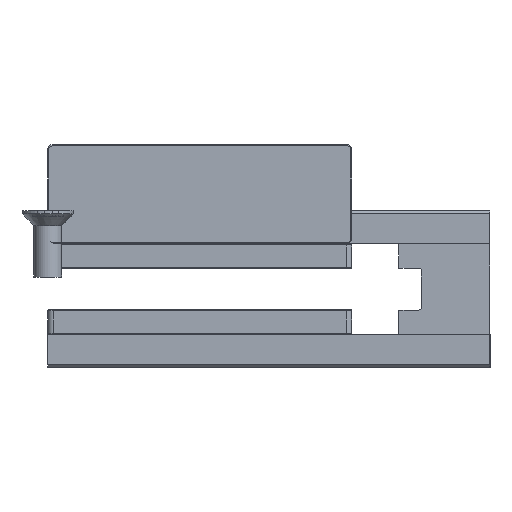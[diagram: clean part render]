
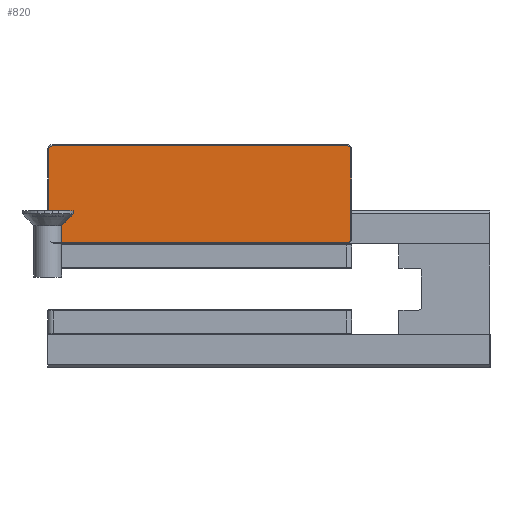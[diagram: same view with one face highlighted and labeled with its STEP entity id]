
A CAD part, front view. The second image highlights one B-rep face of the part: STEP entity #820.
In plain terms, the highlighted planar face has unit normal (0, -1, 0).
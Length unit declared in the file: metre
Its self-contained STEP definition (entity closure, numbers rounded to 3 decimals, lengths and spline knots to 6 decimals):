
#820 = ADVANCED_FACE( '', ( #1056 ), #1057, .T. );
#1056 = FACE_OUTER_BOUND( '', #1834, .T. );
#1057 = PLANE( '', #1835 );
#1834 = EDGE_LOOP( '', ( #2617, #2618, #2619, #2620, #2621, #2622, #2623, #2624 ) );
#1835 = AXIS2_PLACEMENT_3D( '', #2625, #2626, #2627 );
#2617 = ORIENTED_EDGE( '', *, *, #4280, .T. );
#2618 = ORIENTED_EDGE( '', *, *, #4281, .T. );
#2619 = ORIENTED_EDGE( '', *, *, #4282, .T. );
#2620 = ORIENTED_EDGE( '', *, *, #4283, .T. );
#2621 = ORIENTED_EDGE( '', *, *, #4284, .T. );
#2622 = ORIENTED_EDGE( '', *, *, #4285, .T. );
#2623 = ORIENTED_EDGE( '', *, *, #4286, .T. );
#2624 = ORIENTED_EDGE( '', *, *, #4287, .T. );
#2625 = CARTESIAN_POINT( '', ( 0.001, 0., 0.001 ) );
#2626 = DIRECTION( '', ( 0., -1., 0. ) );
#2627 = DIRECTION( '', ( 0., 0., -1. ) );
#4280 = EDGE_CURVE( '', #4766, #4767, #4768, .T. );
#4281 = EDGE_CURVE( '', #4767, #4769, #4770, .T. );
#4282 = EDGE_CURVE( '', #4769, #4771, #4772, .T. );
#4283 = EDGE_CURVE( '', #4771, #4773, #4774, .T. );
#4284 = EDGE_CURVE( '', #4773, #4775, #4776, .T. );
#4285 = EDGE_CURVE( '', #4775, #4777, #4778, .T. );
#4286 = EDGE_CURVE( '', #4777, #4779, #4780, .T. );
#4287 = EDGE_CURVE( '', #4779, #4766, #4781, .T. );
#4766 = VERTEX_POINT( '', #5640 );
#4767 = VERTEX_POINT( '', #5641 );
#4768 = CIRCLE( '', #5642, 0.0008 );
#4769 = VERTEX_POINT( '', #5643 );
#4770 = LINE( '', #5644, #5645 );
#4771 = VERTEX_POINT( '', #5646 );
#4772 = CIRCLE( '', #5647, 0.0008 );
#4773 = VERTEX_POINT( '', #5648 );
#4774 = LINE( '', #5649, #5650 );
#4775 = VERTEX_POINT( '', #5651 );
#4776 = CIRCLE( '', #5652, 0.0008 );
#4777 = VERTEX_POINT( '', #5653 );
#4778 = LINE( '', #5654, #5655 );
#4779 = VERTEX_POINT( '', #5656 );
#4780 = CIRCLE( '', #5657, 0.0008 );
#4781 = LINE( '', #5658, #5659 );
#5640 = CARTESIAN_POINT( '', ( 0.0548, 0., 0.017 ) );
#5641 = CARTESIAN_POINT( '', ( 0.054, 0., 0.0178 ) );
#5642 = AXIS2_PLACEMENT_3D( '', #6850, #6851, #6852 );
#5643 = CARTESIAN_POINT( '', ( 0.001, 0., 0.0178 ) );
#5644 = CARTESIAN_POINT( '', ( 0.001, 0., 0.0178 ) );
#5645 = VECTOR( '', #6853, 1. );
#5646 = CARTESIAN_POINT( '', ( 0.0002, 0., 0.017 ) );
#5647 = AXIS2_PLACEMENT_3D( '', #6854, #6855, #6856 );
#5648 = CARTESIAN_POINT( '', ( 0.0002, 0., 0.001 ) );
#5649 = CARTESIAN_POINT( '', ( 0.0002, 0., 0.001 ) );
#5650 = VECTOR( '', #6857, 1. );
#5651 = CARTESIAN_POINT( '', ( 0.001, 0., 0.0002 ) );
#5652 = AXIS2_PLACEMENT_3D( '', #6858, #6859, #6860 );
#5653 = CARTESIAN_POINT( '', ( 0.054, 0., 0.0002 ) );
#5654 = CARTESIAN_POINT( '', ( 0.001, 0., 0.0002 ) );
#5655 = VECTOR( '', #6861, 1. );
#5656 = CARTESIAN_POINT( '', ( 0.0548, 0., 0.001 ) );
#5657 = AXIS2_PLACEMENT_3D( '', #6862, #6863, #6864 );
#5658 = CARTESIAN_POINT( '', ( 0.0548, 0., 0.001 ) );
#5659 = VECTOR( '', #6865, 1. );
#6850 = CARTESIAN_POINT( '', ( 0.054, 0., 0.017 ) );
#6851 = DIRECTION( '', ( 0., -1., 0. ) );
#6852 = DIRECTION( '', ( 0., 0., -1. ) );
#6853 = DIRECTION( '', ( -1., 0., 0. ) );
#6854 = CARTESIAN_POINT( '', ( 0.001, 0., 0.017 ) );
#6855 = DIRECTION( '', ( 0., -1., 0. ) );
#6856 = DIRECTION( '', ( 0., 0., -1. ) );
#6857 = DIRECTION( '', ( 0., 0., -1. ) );
#6858 = CARTESIAN_POINT( '', ( 0.001, 0., 0.001 ) );
#6859 = DIRECTION( '', ( 0., -1., 0. ) );
#6860 = DIRECTION( '', ( 0., 0., -1. ) );
#6861 = DIRECTION( '', ( 1., 0., 0. ) );
#6862 = CARTESIAN_POINT( '', ( 0.054, 0., 0.001 ) );
#6863 = DIRECTION( '', ( 0., -1., 0. ) );
#6864 = DIRECTION( '', ( 0., 0., -1. ) );
#6865 = DIRECTION( '', ( 0., 0., 1. ) );
